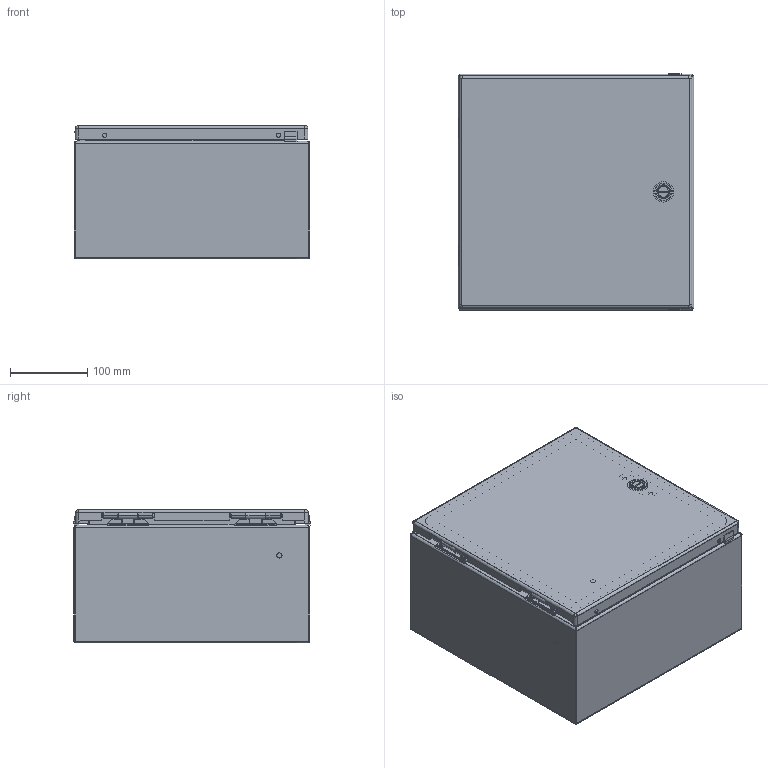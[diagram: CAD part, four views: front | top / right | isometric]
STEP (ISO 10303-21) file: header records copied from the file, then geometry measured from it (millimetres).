
FILE_DESCRIPTION (( 'STEP AP203' ), '1' );
FILE_NAME ('csd12126.STEP', '2012-05-21T18:19:47', ( 'User' ), ( 'Pentair Inc' ), 'SwSTEP 2.0', 'SolidWorks 2010', '' );
FILE_SCHEMA (( 'CONFIG_CONTROL_DESIGN' ));
Length unit declared in the file: inch
Products named in the file (27): csd12126; 87934502; 87934359_default; 23271001_After Weld; 87937607_assy; 87937605_weldment; 87937903; 99401225; 87931362_87931362; 64101001; 64201001; 87541994_Installed Height; 87541995; 64202001; 64210001; 64203001; 87927840_87927840; 87932903; 64138001; 89057559; 87543027; 89076399; 89076193; 89056623; 87929507; 87929767; 87929769_Installed on Pin
Assembly tree (36 placements, depth 4):
  csd12126
    87543027  x2
    89076399  x2
      89076193
      89056623
    87937607_assy
      89057559
      87932903  x2
      64138001  x2
      87937605_weldment
        87931362_87931362  x2
        99401225
        87937903
      64101001
        87927840_87927840
        64201001
        87541995
        64202001
        87541994_Installed Height
        64203001
        64210001
    87929507  x2
      87929769_Installed on Pin
      87929767
    87934502
      23271001_After Weld  x4
      99401225
      87934359_default
Bounding box: 304.8 x 305.53 x 173.1 mm (x, y, z)
Volume: 625467.2 mm3; surface area: 922727.7 mm2
Topology: 33 solids, 33 shells, 1667 faces, 4085 edges, 2466 vertices
Faces by surface type: plane 646, cylinder 535, bspline 288, torus 102, cone 88, sphere 8
Entity records: 46159 total; most frequent: CARTESIAN_POINT 16300, ORIENTED_EDGE 5874, DIRECTION 5113, EDGE_CURVE 2937, AXIS2_PLACEMENT_3D 1831, VERTEX_POINT 1802, LINE 1451, VECTOR 1451
